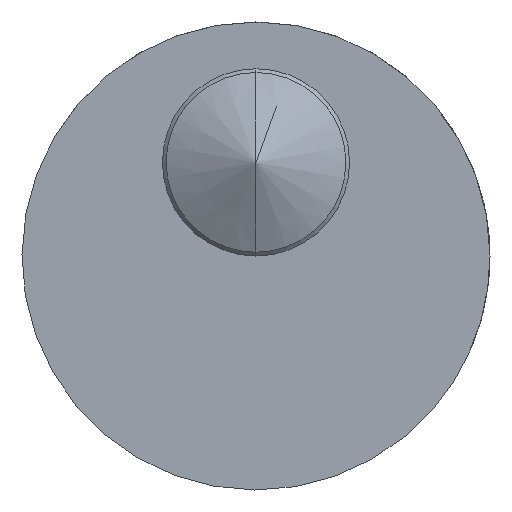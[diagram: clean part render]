
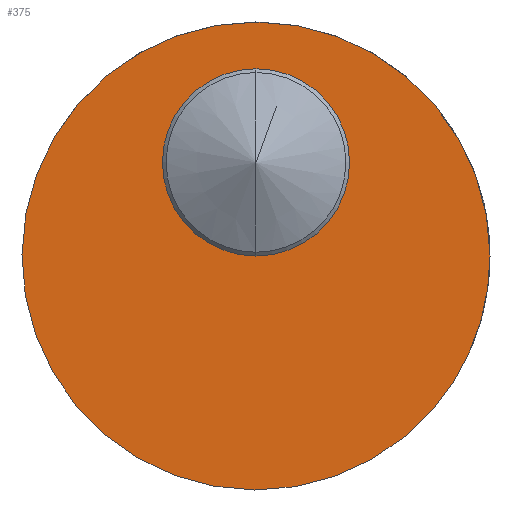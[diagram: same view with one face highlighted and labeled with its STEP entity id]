
A CAD part, front view. The second image highlights one B-rep face of the part: STEP entity #375.
In plain terms, the highlighted planar face has unit normal (0, -1, 0).
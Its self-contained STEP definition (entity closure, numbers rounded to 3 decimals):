
#175 = VERTEX_POINT( '', #448 );
#205 = VERTEX_POINT( '', #480 );
#225 = EDGE_CURVE( '', #285, #243, #504, .T. );
#227 = EDGE_CURVE( '', #339, #205, #506, .T. );
#243 = VERTEX_POINT( '', #524 );
#283 = EDGE_CURVE( '', #205, #175, #568, .T. );
#285 = VERTEX_POINT( '', #570 );
#339 = VERTEX_POINT( '', #630 );
#375 = ADVANCED_FACE( '', ( #667, #668 ), #669, .F. );
#383 = EDGE_CURVE( '', #243, #285, #678, .T. );
#387 = EDGE_CURVE( '', #175, #339, #682, .T. );
#448 = CARTESIAN_POINT( '', ( 9.524, -28., -14.596 ) );
#480 = CARTESIAN_POINT( '', ( 12.5, -28., -6.5 ) );
#504 = CIRCLE( '', #825, 5. );
#506 = CIRCLE( '', #828, 12.5 );
#524 = CARTESIAN_POINT( '', ( 0., -28., 3.5 ) );
#568 = CIRCLE( '', #941, 12.5 );
#570 = CARTESIAN_POINT( '', ( 0., -28., -6.5 ) );
#630 = CARTESIAN_POINT( '', ( -9.524, -28., 1.596 ) );
#667 = FACE_BOUND( '', #1080, .T. );
#668 = FACE_OUTER_BOUND( '', #1081, .T. );
#669 = PLANE( '', #1082 );
#678 = CIRCLE( '', #1095, 5. );
#682 = CIRCLE( '', #1110, 12.5 );
#825 = AXIS2_PLACEMENT_3D( '', #1235, #1236, #1237 );
#828 = AXIS2_PLACEMENT_3D( '', #1238, #1239, #1240 );
#941 = AXIS2_PLACEMENT_3D( '', #1308, #1309, #1310 );
#1080 = EDGE_LOOP( '', ( #1403, #1404 ) );
#1081 = EDGE_LOOP( '', ( #1405, #1406, #1407 ) );
#1082 = AXIS2_PLACEMENT_3D( '', #1408, #1409, #1410 );
#1095 = AXIS2_PLACEMENT_3D( '', #1424, #1425, #1426 );
#1110 = AXIS2_PLACEMENT_3D( '', #1427, #1428, #1429 );
#1235 = CARTESIAN_POINT( '', ( 0., -28., -1.5 ) );
#1236 = DIRECTION( '', ( 0., 1., 0. ) );
#1237 = DIRECTION( '', ( 0., 0., -1. ) );
#1238 = CARTESIAN_POINT( '', ( 0., -28., -6.5 ) );
#1239 = DIRECTION( '', ( 0., 1., 0. ) );
#1240 = DIRECTION( '', ( 1., 0., 0. ) );
#1308 = CARTESIAN_POINT( '', ( 0., -28., -6.5 ) );
#1309 = DIRECTION( '', ( 0., 1., 0. ) );
#1310 = DIRECTION( '', ( 1., 0., 0. ) );
#1403 = ORIENTED_EDGE( '', *, *, #225, .T. );
#1404 = ORIENTED_EDGE( '', *, *, #383, .T. );
#1405 = ORIENTED_EDGE( '', *, *, #283, .F. );
#1406 = ORIENTED_EDGE( '', *, *, #227, .F. );
#1407 = ORIENTED_EDGE( '', *, *, #387, .F. );
#1408 = CARTESIAN_POINT( '', ( 0., -28., 0. ) );
#1409 = DIRECTION( '', ( 0., 1., 0. ) );
#1410 = DIRECTION( '', ( 0., 0., 1. ) );
#1424 = CARTESIAN_POINT( '', ( 0., -28., -1.5 ) );
#1425 = DIRECTION( '', ( 0., 1., 0. ) );
#1426 = DIRECTION( '', ( 0., 0., -1. ) );
#1427 = CARTESIAN_POINT( '', ( 0., -28., -6.5 ) );
#1428 = DIRECTION( '', ( 0., 1., 0. ) );
#1429 = DIRECTION( '', ( 1., 0., 0. ) );
